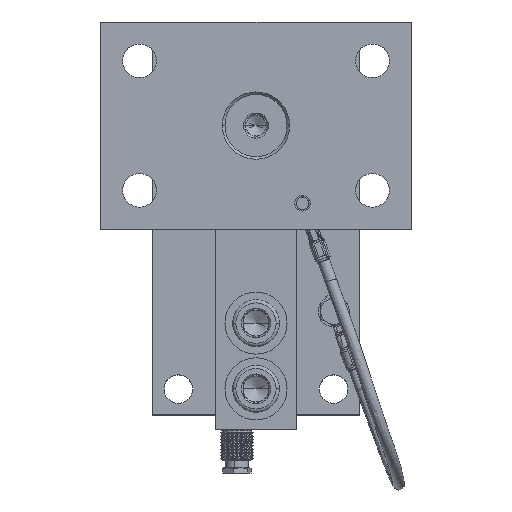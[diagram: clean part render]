
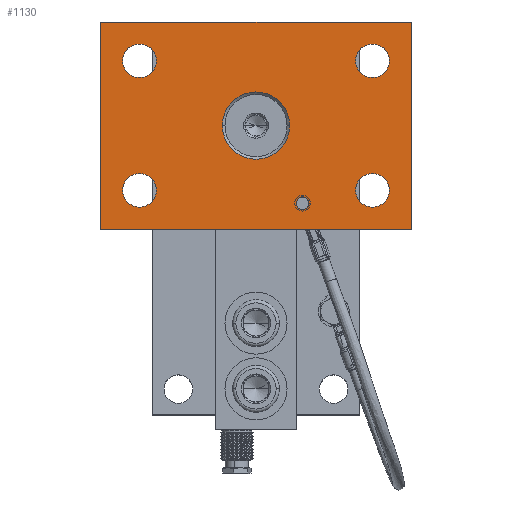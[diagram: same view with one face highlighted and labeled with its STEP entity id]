
A CAD part, top view. The second image highlights one B-rep face of the part: STEP entity #1130.
In plain terms, the highlighted planar face has unit normal (0, 0, 1).
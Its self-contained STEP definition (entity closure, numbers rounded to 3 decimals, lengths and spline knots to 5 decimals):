
#1130=ADVANCED_FACE('226:72',(#1881,#1882,#1883,#1884,#1885,#1886,#1887),#1888,.T.);
#1881=FACE_OUTER_BOUND('',#8818,.T.);
#1882=FACE_BOUND('',#8819,.T.);
#1883=FACE_BOUND('',#8820,.T.);
#1884=FACE_BOUND('',#8821,.T.);
#1885=FACE_BOUND('',#8822,.T.);
#1886=FACE_BOUND('',#8823,.T.);
#1887=FACE_BOUND('',#8824,.T.);
#1888=PLANE('',#8825);
#8818=EDGE_LOOP('',(#10953,#10954,#10955,#10956));
#8819=EDGE_LOOP('',(#10957,#10958));
#8820=EDGE_LOOP('',(#10959,#10960));
#8821=EDGE_LOOP('',(#10961,#10962));
#8822=EDGE_LOOP('',(#10963,#10964));
#8823=EDGE_LOOP('',(#10965,#10966));
#8824=EDGE_LOOP('',(#10967,#10968));
#8825=AXIS2_PLACEMENT_3D('',#10969,#10970,#10971);
#10953=ORIENTED_EDGE('',*,*,#13667,.F.);
#10954=ORIENTED_EDGE('',*,*,#13668,.F.);
#10955=ORIENTED_EDGE('',*,*,#13669,.F.);
#10956=ORIENTED_EDGE('',*,*,#13670,.F.);
#10957=ORIENTED_EDGE('',*,*,#13671,.F.);
#10958=ORIENTED_EDGE('',*,*,#13635,.F.);
#10959=ORIENTED_EDGE('',*,*,#13672,.F.);
#10960=ORIENTED_EDGE('',*,*,#13631,.F.);
#10961=ORIENTED_EDGE('',*,*,#13673,.F.);
#10962=ORIENTED_EDGE('',*,*,#13639,.F.);
#10963=ORIENTED_EDGE('',*,*,#13674,.F.);
#10964=ORIENTED_EDGE('',*,*,#13643,.F.);
#10965=ORIENTED_EDGE('',*,*,#13649,.T.);
#10966=ORIENTED_EDGE('',*,*,#13675,.T.);
#10967=ORIENTED_EDGE('',*,*,#13665,.F.);
#10968=ORIENTED_EDGE('',*,*,#13666,.F.);
#10969=CARTESIAN_POINT('',(0.0,0.0,0.043));
#10970=DIRECTION('',(0.0,0.0,1.0));
#10971=DIRECTION('',(1.0,0.0,0.0));
#13631=EDGE_CURVE('226:93',#15096,#15099,#15100,.T.);
#13635=EDGE_CURVE('226:90',#15104,#15107,#15108,.T.);
#13639=EDGE_CURVE('226:96',#15112,#15115,#15116,.T.);
#13643=EDGE_CURVE('226:99',#15120,#15123,#15124,.T.);
#13649=EDGE_CURVE('227:323',#15129,#15133,#15135,.T.);
#13665=EDGE_CURVE('232:1512',#15163,#15160,#15165,.T.);
#13666=EDGE_CURVE('232:1512',#15160,#15163,#15166,.T.);
#13667=EDGE_CURVE('223:1618',#15167,#15168,#15169,.T.);
#13668=EDGE_CURVE('223:1648',#15170,#15167,#15171,.T.);
#13669=EDGE_CURVE('223:1639',#15172,#15170,#15173,.T.);
#13670=EDGE_CURVE('223:1630',#15168,#15172,#15174,.T.);
#13671=EDGE_CURVE('226:90',#15107,#15104,#15175,.T.);
#13672=EDGE_CURVE('226:93',#15099,#15096,#15176,.T.);
#13673=EDGE_CURVE('226:96',#15115,#15112,#15177,.T.);
#13674=EDGE_CURVE('226:99',#15123,#15120,#15178,.T.);
#13675=EDGE_CURVE('227:323',#15133,#15129,#15179,.T.);
#15096=VERTEX_POINT('',#18327);
#15099=VERTEX_POINT('',#18331);
#15100=CIRCLE('',#18332,0.0065);
#15104=VERTEX_POINT('',#18337);
#15107=VERTEX_POINT('',#18341);
#15108=CIRCLE('',#18342,0.0065);
#15112=VERTEX_POINT('',#18347);
#15115=VERTEX_POINT('',#18351);
#15116=CIRCLE('',#18352,0.0065);
#15120=VERTEX_POINT('',#18357);
#15123=VERTEX_POINT('',#18361);
#15124=CIRCLE('',#18362,0.0065);
#15129=VERTEX_POINT('',#18368);
#15133=VERTEX_POINT('',#18373);
#15135=CIRCLE('',#18376,0.0025);
#15160=VERTEX_POINT('',#18407);
#15163=VERTEX_POINT('',#18411);
#15165=CIRCLE('',#18414,0.013);
#15166=CIRCLE('',#18415,0.013);
#15167=VERTEX_POINT('',#18416);
#15168=VERTEX_POINT('',#18417);
#15169=LINE('',#18418,#18419);
#15170=VERTEX_POINT('',#18420);
#15171=LINE('',#18421,#18422);
#15172=VERTEX_POINT('',#18423);
#15173=LINE('',#18424,#18425);
#15174=LINE('',#18426,#18427);
#15175=CIRCLE('',#18428,0.0065);
#15176=CIRCLE('',#18429,0.0065);
#15177=CIRCLE('',#18430,0.0065);
#15178=CIRCLE('',#18431,0.0065);
#15179=CIRCLE('',#18432,0.0025);
#18327=CARTESIAN_POINT('',(-0.0515,0.025,0.043));
#18331=CARTESIAN_POINT('',(-0.0385,0.025,0.043));
#18332=AXIS2_PLACEMENT_3D('',#20702,#20703,#20704);
#18337=CARTESIAN_POINT('',(-0.0515,-0.025,0.043));
#18341=CARTESIAN_POINT('',(-0.0385,-0.025,0.043));
#18342=AXIS2_PLACEMENT_3D('',#20710,#20711,#20712);
#18347=CARTESIAN_POINT('',(0.0385,-0.025,0.043));
#18351=CARTESIAN_POINT('',(0.0515,-0.025,0.043));
#18352=AXIS2_PLACEMENT_3D('',#20718,#20719,#20720);
#18357=CARTESIAN_POINT('',(0.0385,0.025,0.043));
#18361=CARTESIAN_POINT('',(0.0515,0.025,0.043));
#18362=AXIS2_PLACEMENT_3D('',#20726,#20727,#20728);
#18368=CARTESIAN_POINT('',(0.0155,-0.03,0.043));
#18373=CARTESIAN_POINT('',(0.0205,-0.03,0.043));
#18376=AXIS2_PLACEMENT_3D('',#20738,#20739,#20740);
#18407=CARTESIAN_POINT('',(-0.013,0.,0.043));
#18411=CARTESIAN_POINT('',(0.013,0.,0.043));
#18414=AXIS2_PLACEMENT_3D('',#20770,#20771,#20772);
#18415=AXIS2_PLACEMENT_3D('',#20773,#20774,#20775);
#18416=CARTESIAN_POINT('',(-0.06,0.04,0.043));
#18417=CARTESIAN_POINT('',(0.06,0.04,0.043));
#18418=CARTESIAN_POINT('',(-0.06,0.04,0.043));
#18419=VECTOR('',#20776,1.0);
#18420=CARTESIAN_POINT('',(-0.06,-0.04,0.043));
#18421=CARTESIAN_POINT('',(-0.06,-0.04,0.043));
#18422=VECTOR('',#20777,1.0);
#18423=CARTESIAN_POINT('',(0.06,-0.04,0.043));
#18424=CARTESIAN_POINT('',(0.06,-0.04,0.043));
#18425=VECTOR('',#20778,1.0);
#18426=CARTESIAN_POINT('',(0.06,0.04,0.043));
#18427=VECTOR('',#20779,1.0);
#18428=AXIS2_PLACEMENT_3D('',#20780,#20781,#20782);
#18429=AXIS2_PLACEMENT_3D('',#20783,#20784,#20785);
#18430=AXIS2_PLACEMENT_3D('',#20786,#20787,#20788);
#18431=AXIS2_PLACEMENT_3D('',#20789,#20790,#20791);
#18432=AXIS2_PLACEMENT_3D('',#20792,#20793,#20794);
#20702=CARTESIAN_POINT('',(-0.045,0.025,0.043));
#20703=DIRECTION('',(0.0,0.0,1.0));
#20704=DIRECTION('',(1.0,0.0,0.0));
#20710=CARTESIAN_POINT('',(-0.045,-0.025,0.043));
#20711=DIRECTION('',(0.0,0.0,1.0));
#20712=DIRECTION('',(1.0,0.0,0.0));
#20718=CARTESIAN_POINT('',(0.045,-0.025,0.043));
#20719=DIRECTION('',(0.0,0.0,1.0));
#20720=DIRECTION('',(1.0,0.0,0.0));
#20726=CARTESIAN_POINT('',(0.045,0.025,0.043));
#20727=DIRECTION('',(0.0,0.0,1.0));
#20728=DIRECTION('',(1.0,0.0,0.0));
#20738=CARTESIAN_POINT('',(0.018,-0.03,0.043));
#20739=DIRECTION('',(-0.0,0.0,-1.0));
#20740=DIRECTION('',(-1.0,0.0,0.0));
#20770=CARTESIAN_POINT('',(0.,0.0,0.043));
#20771=DIRECTION('',(0.0,0.0,1.0));
#20772=DIRECTION('',(-1.0,0.0,0.0));
#20773=CARTESIAN_POINT('',(0.,0.0,0.043));
#20774=DIRECTION('',(0.0,0.0,1.0));
#20775=DIRECTION('',(-1.0,0.0,0.0));
#20776=DIRECTION('',(1.0,0.0,0.0));
#20777=DIRECTION('',(0.0,1.0,0.0));
#20778=DIRECTION('',(-1.0,0.0,0.0));
#20779=DIRECTION('',(0.0,-1.0,0.0));
#20780=CARTESIAN_POINT('',(-0.045,-0.025,0.043));
#20781=DIRECTION('',(0.0,0.0,1.0));
#20782=DIRECTION('',(1.0,0.0,0.0));
#20783=CARTESIAN_POINT('',(-0.045,0.025,0.043));
#20784=DIRECTION('',(0.0,0.0,1.0));
#20785=DIRECTION('',(1.0,0.0,0.0));
#20786=CARTESIAN_POINT('',(0.045,-0.025,0.043));
#20787=DIRECTION('',(0.0,0.0,1.0));
#20788=DIRECTION('',(1.0,0.0,0.0));
#20789=CARTESIAN_POINT('',(0.045,0.025,0.043));
#20790=DIRECTION('',(0.0,0.0,1.0));
#20791=DIRECTION('',(1.0,0.0,0.0));
#20792=CARTESIAN_POINT('',(0.018,-0.03,0.043));
#20793=DIRECTION('',(-0.0,0.0,-1.0));
#20794=DIRECTION('',(-1.0,0.0,0.0));
